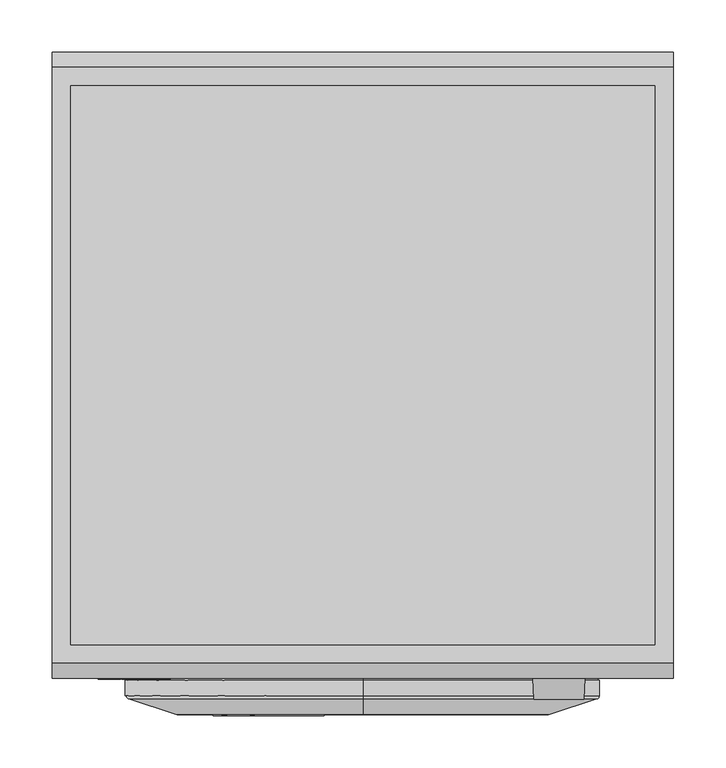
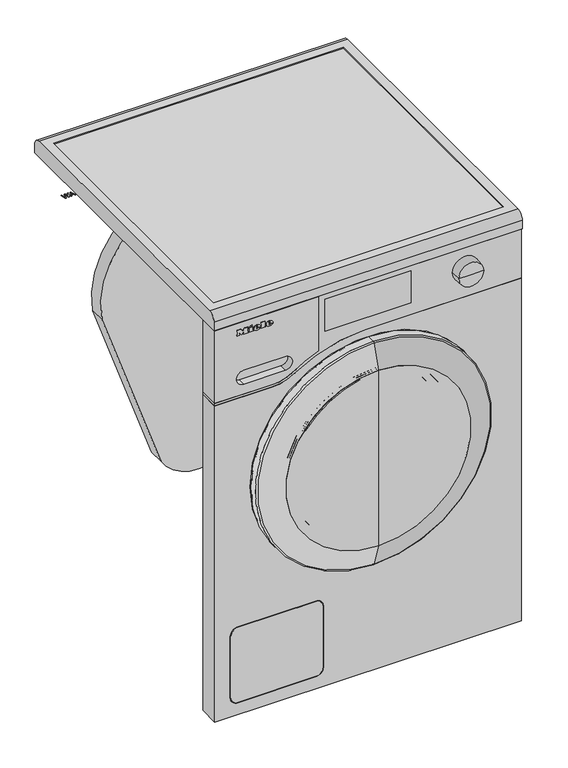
"""IFC4 building model written with IfcOpenShell, lengths in millimetres: proxy geometry, 12486470_P_WCB380WCS_LW : 11CB3801_P_12486470_WCB380WCS_LW."""

from ifc_helpers import new_model, si_unit, point, frame, frame_2d, origin, place, context, project, spatial, polyline, circle_curve, ellipse_curve, trimmed, segment, composite_curve, outline, extrude, source, transform, mapped, element, save
from ifc_brep_helpers import plane_surface, cylinder_surface, revolved_surface, extruded_surface, advanced_brep


def specialty_equipment_48e7e25c(model_context):
    return source(origin(), model_context, "Body", "SolidModel", [
        advanced_brep(
        [(-192.212, -601.0, 794.7018), (-192.212, -601.0, 795.8532), (-184.5854, -601.0, 795.8532), (-197.855, -601.0, 795.8532), (-194.72, -601.0, 792.0), (-184.7792, -601.0, 794.7018), (-188.222, -601.0, 794.7018), (-190.9352, -601.0, 793.425), (-192.212, -601.0, 797.3124), (-192.212, -601.0, 798.555), (-190.2626, -601.0, 798.555), (-190.2626, -601.0, 797.3124), (-192.212, -600.0, 794.7018), (-190.9352, -600.0, 793.425), (-188.222, -600.0, 794.7018), (-184.7792, -600.0, 794.7018), (-194.72, -600.0, 792.0), (-197.855, -600.0, 795.8532), (-184.5854, -600.0, 795.8532), (-192.212, -600.0, 795.8532), (-192.212, -600.0, 797.3124), (-190.2626, -600.0, 797.3124), (-190.2626, -600.0, 798.555), (-192.212, -600.0, 798.555)],
        [
            (0, 1),
            (1, 2),
            (2, 3, ellipse_curve(frame((-191.2202, -601.0, 795.8532), z_axis=(0.0, -1.0, 0.0), x_axis=(-1.0, 0.0, 0.0)), 6.6348, 5.4834)),
            (3, 4, circle_curve(frame((-193.4431378, -601.0, 796.2408), z_axis=(0.0, -1.0, 0.0), x_axis=(0.0, 0.0, -1.0)), 4.4288556)),
            (4, 5, circle_curve(frame((-191.3530192, -601.0, 799.2504), z_axis=(0.0, -1.0, 0.0), x_axis=(0.0, 0.0, -1.0)), 7.9940516)),
            (5, 6),
            (6, 7, circle_curve(frame((-190.3779412, -601.0, 795.762), z_axis=(0.0, 1.0, 0.0), x_axis=(0.0, 0.0, -1.0)), 2.4025208)),
            (7, 0, circle_curve(frame((-190.9352, -601.0, 794.7018), z_axis=(0.0, 1.0, 0.0), x_axis=(0.0, 0.0, -1.0)), 1.2768)),
            (8, 9),
            (9, 10, circle_curve(frame((-191.2373, -601.0, 798.555), z_axis=(0.0, 1.0, 0.0), x_axis=(0.0, 0.0, -1.0)), 0.9747)),
            (10, 11),
            (11, 8),
            (12, 13, circle_curve(frame((-190.9352, -600.0, 794.7018), z_axis=(0.0, -1.0, 0.0), x_axis=(0.0, 0.0, -1.0)), 1.2768)),
            (13, 14, circle_curve(frame((-190.3779412, -600.0, 795.762), z_axis=(0.0, -1.0, 0.0), x_axis=(0.0, 0.0, -1.0)), 2.4025208)),
            (14, 15),
            (15, 16, circle_curve(frame((-191.3530192, -600.0, 799.2504), z_axis=(0.0, 1.0, 0.0), x_axis=(0.0, 0.0, -1.0)), 7.9940516)),
            (16, 17, circle_curve(frame((-193.4431378, -600.0, 796.2408), z_axis=(0.0, 1.0, 0.0), x_axis=(0.0, 0.0, -1.0)), 4.4288556)),
            (17, 18, ellipse_curve(frame((-191.2202, -600.0, 795.8532), z_axis=(0.0, 1.0, 0.0), x_axis=(-1.0, 0.0, 0.0)), 6.6348, 5.4834)),
            (18, 19),
            (19, 12),
            (20, 21),
            (21, 22),
            (22, 23, circle_curve(frame((-191.2373, -600.0, 798.555), z_axis=(0.0, -1.0, 0.0), x_axis=(0.0, 0.0, -1.0)), 0.9747)),
            (23, 20),
            (0, 12),
            (19, 1),
            (18, 2),
            (5, 15),
            (14, 6),
            (17, 3),
            (13, 7),
            (16, 4),
            (8, 20),
            (23, 9),
            (22, 10),
            (21, 11),
        ],
        [
            plane_surface(frame((-192.212, -601.0, 795.8532), z_axis=(0.0, -1.0, 0.0), x_axis=(0.0, 0.0, 1.0))),
            plane_surface(frame((-192.212, -600.0, 795.8532), z_axis=(0.0, 1.0, 0.0), x_axis=(0.0, 0.0, -1.0))),
            plane_surface(frame((-192.212, -601.0, 794.7018), z_axis=(1.0, 0.0, 0.0), x_axis=(0.0, 1.0, 0.0))),
            plane_surface(frame((-192.212, -601.0, 795.8532), z_axis=(0.0, 0.0, -1.0), x_axis=(0.0, 1.0, 0.0))),
            plane_surface(frame((-184.7792, -601.0, 794.7018), z_axis=(0.0, 0.0, 1.0), x_axis=(0.0, 1.0, 0.0))),
            extruded_surface(trimmed(ellipse_curve(frame((-191.2202, -599.0, 795.8532), z_axis=(0.0, -1.0, 0.0), x_axis=(-1.0, 0.0, 0.0)), 6.6348, 5.4834), [point((-184.5854, -599.0, 795.8532))], [point((-197.855, -599.0, 795.8532))], True, "CARTESIAN"), (0.0, -1.0, 0.0), 1.0),
            revolved_surface(polyline([(-190.3779412, -600.0, 793.3594791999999), (-190.3779412, -601.0, 793.3594791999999)]), (-190.3779412, -600.0, 795.762), (0.0, 1.0, 0.0)),
            revolved_surface(polyline([(-190.9352, -600.0, 793.4250000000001), (-190.9352, -601.0, 793.4250000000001)]), (-190.9352, -600.0, 794.7018), (0.0, 1.0, 0.0)),
            cylinder_surface(frame((-193.4431378, -600.0, 796.2408), z_axis=(0.0, -1.0, 0.0), x_axis=(0.0, 0.0, -1.0)), 4.4288556),
            cylinder_surface(frame((-191.3530192, -600.0, 799.2504), z_axis=(0.0, -1.0, 0.0), x_axis=(0.0, 0.0, -1.0)), 7.9940516),
            plane_surface(frame((-192.212, -601.0, 797.3124), z_axis=(1.0, 0.0, 0.0), x_axis=(0.0, 1.0, 0.0))),
            revolved_surface(polyline([(-191.2373, -600.0, 797.5803), (-191.2373, -601.0, 797.5803)]), (-191.2373, -600.0, 798.555), (0.0, 1.0, 0.0)),
            plane_surface(frame((-190.2626, -601.0, 798.555), z_axis=(-1.0, 0.0, 0.0), x_axis=(0.0, 1.0, 0.0))),
            plane_surface(frame((-190.2626, -601.0, 797.3124), z_axis=(0.0, 0.0, 1.0), x_axis=(0.0, 1.0, 0.0))),
        ],
        [
            (0, [[1, 2, 3, 4, 5, 6, 7, 8], [9, 10, 11, 12]]),
            (1, [[13, 14, 15, 16, 17, 18, 19, 20], [21, 22, 23, 24]]),
            (2, [[-1, 25, -20, 26]]),
            (3, [[-2, -26, -19, 27]]),
            (4, [[-6, 28, -15, 29]]),
            (5, [[-3, -27, -18, 30]]),
            (6, [[-7, -29, -14, 31]]),
            (7, [[-8, -31, -13, -25]]),
            (8, [[-4, -30, -17, 32]]),
            (9, [[-5, -32, -16, -28]]),
            (10, [[-9, 33, -24, 34]]),
            (11, [[-10, -34, -23, 35]]),
            (12, [[-11, -35, -22, 36]]),
            (13, [[-12, -36, -21, -33]]),
        ],
    ),
        advanced_brep(
        [(-216.0038, -601.0, 794.7018), (-216.0038, -601.0, 795.8532), (-208.3772, -601.0, 795.8532), (-221.6468, -601.0, 795.8532), (-218.5118, -601.0, 792.0), (-208.571, -601.0, 794.7018), (-212.0138, -601.0, 794.7018), (-214.727, -601.0, 793.425), (-216.0038, -601.0, 797.3124), (-216.0038, -601.0, 798.555), (-214.0544, -601.0, 798.555), (-214.0544, -601.0, 797.3124), (-216.0038, -600.0, 794.7018), (-214.727, -600.0, 793.425), (-212.0138, -600.0, 794.7018), (-208.571, -600.0, 794.7018), (-218.5118, -600.0, 792.0), (-221.6468, -600.0, 795.8532), (-208.3772, -600.0, 795.8532), (-216.0038, -600.0, 795.8532), (-216.0038, -600.0, 797.3124), (-214.0544, -600.0, 797.3124), (-214.0544, -600.0, 798.555), (-216.0038, -600.0, 798.555)],
        [
            (0, 1),
            (1, 2),
            (2, 3, ellipse_curve(frame((-215.012, -601.0, 795.8532), z_axis=(0.0, -1.0, 0.0), x_axis=(-1.0, 0.0, 0.0)), 6.6348, 5.4834)),
            (3, 4, circle_curve(frame((-217.2349378, -601.0, 796.2408), z_axis=(0.0, -1.0, 0.0), x_axis=(0.0, 0.0, -1.0)), 4.4288556)),
            (4, 5, circle_curve(frame((-215.1448192, -601.0, 799.2504), z_axis=(0.0, -1.0, 0.0), x_axis=(0.0, 0.0, -1.0)), 7.9940516)),
            (5, 6),
            (6, 7, circle_curve(frame((-214.1697412, -601.0, 795.762), z_axis=(0.0, 1.0, 0.0), x_axis=(0.0, 0.0, -1.0)), 2.4025208)),
            (7, 0, circle_curve(frame((-214.727, -601.0, 794.7018), z_axis=(0.0, 1.0, 0.0), x_axis=(0.0, 0.0, -1.0)), 1.2768)),
            (8, 9),
            (9, 10, circle_curve(frame((-215.0291, -601.0, 798.555), z_axis=(0.0, 1.0, 0.0), x_axis=(0.0, 0.0, -1.0)), 0.9747)),
            (10, 11),
            (11, 8),
            (12, 13, circle_curve(frame((-214.727, -600.0, 794.7018), z_axis=(0.0, -1.0, 0.0), x_axis=(0.0, 0.0, -1.0)), 1.2768)),
            (13, 14, circle_curve(frame((-214.1697412, -600.0, 795.762), z_axis=(0.0, -1.0, 0.0), x_axis=(0.0, 0.0, -1.0)), 2.4025208)),
            (14, 15),
            (15, 16, circle_curve(frame((-215.1448192, -600.0, 799.2504), z_axis=(0.0, 1.0, 0.0), x_axis=(0.0, 0.0, -1.0)), 7.9940516)),
            (16, 17, circle_curve(frame((-217.2349378, -600.0, 796.2408), z_axis=(0.0, 1.0, 0.0), x_axis=(0.0, 0.0, -1.0)), 4.4288556)),
            (17, 18, ellipse_curve(frame((-215.012, -600.0, 795.8532), z_axis=(0.0, 1.0, 0.0), x_axis=(-1.0, 0.0, 0.0)), 6.6348, 5.4834)),
            (18, 19),
            (19, 12),
            (20, 21),
            (21, 22),
            (22, 23, circle_curve(frame((-215.0291, -600.0, 798.555), z_axis=(0.0, -1.0, 0.0), x_axis=(0.0, 0.0, -1.0)), 0.9747)),
            (23, 20),
            (0, 12),
            (19, 1),
            (18, 2),
            (5, 15),
            (14, 6),
            (17, 3),
            (13, 7),
            (16, 4),
            (8, 20),
            (23, 9),
            (22, 10),
            (21, 11),
        ],
        [
            plane_surface(frame((-216.0038, -601.0, 795.8532), z_axis=(0.0, -1.0, 0.0), x_axis=(0.0, 0.0, 1.0))),
            plane_surface(frame((-216.0038, -600.0, 795.8532), z_axis=(0.0, 1.0, 0.0), x_axis=(0.0, 0.0, -1.0))),
            plane_surface(frame((-216.0038, -601.0, 794.7018), z_axis=(1.0, 0.0, 0.0), x_axis=(0.0, 1.0, 0.0))),
            plane_surface(frame((-216.0038, -601.0, 795.8532), z_axis=(0.0, 0.0, -1.0), x_axis=(0.0, 1.0, 0.0))),
            plane_surface(frame((-208.571, -601.0, 794.7018), z_axis=(0.0, 0.0, 1.0), x_axis=(0.0, 1.0, 0.0))),
            extruded_surface(trimmed(ellipse_curve(frame((-215.012, -599.0, 795.8532), z_axis=(0.0, -1.0, 0.0), x_axis=(-1.0, 0.0, 0.0)), 6.6348, 5.4834), [point((-208.3772, -599.0, 795.8532))], [point((-221.6468, -599.0, 795.8532))], True, "CARTESIAN"), (0.0, -1.0, 0.0), 1.0),
            revolved_surface(polyline([(-214.1697412, -600.0, 793.3594791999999), (-214.1697412, -601.0, 793.3594791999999)]), (-214.1697412, -600.0, 795.762), (0.0, 1.0, 0.0)),
            revolved_surface(polyline([(-214.727, -600.0, 793.4250000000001), (-214.727, -601.0, 793.4250000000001)]), (-214.727, -600.0, 794.7018), (0.0, 1.0, 0.0)),
            cylinder_surface(frame((-217.2349378, -600.0, 796.2408), z_axis=(0.0, -1.0, 0.0), x_axis=(0.0, 0.0, -1.0)), 4.4288556),
            cylinder_surface(frame((-215.1448192, -600.0, 799.2504), z_axis=(0.0, -1.0, 0.0), x_axis=(0.0, 0.0, -1.0)), 7.9940516),
            plane_surface(frame((-216.0038, -601.0, 797.3124), z_axis=(1.0, 0.0, 0.0), x_axis=(0.0, 1.0, 0.0))),
            revolved_surface(polyline([(-215.0291, -600.0, 797.5803), (-215.0291, -601.0, 797.5803)]), (-215.0291, -600.0, 798.555), (0.0, 1.0, 0.0)),
            plane_surface(frame((-214.0544, -601.0, 798.555), z_axis=(-1.0, 0.0, 0.0), x_axis=(0.0, 1.0, 0.0))),
            plane_surface(frame((-214.0544, -601.0, 797.3124), z_axis=(0.0, 0.0, 1.0), x_axis=(0.0, 1.0, 0.0))),
        ],
        [
            (0, [[1, 2, 3, 4, 5, 6, 7, 8], [9, 10, 11, 12]]),
            (1, [[13, 14, 15, 16, 17, 18, 19, 20], [21, 22, 23, 24]]),
            (2, [[-1, 25, -20, 26]]),
            (3, [[-2, -26, -19, 27]]),
            (4, [[-6, 28, -15, 29]]),
            (5, [[-3, -27, -18, 30]]),
            (6, [[-7, -29, -14, 31]]),
            (7, [[-8, -31, -13, -25]]),
            (8, [[-4, -30, -17, 32]]),
            (9, [[-5, -32, -16, -28]]),
            (10, [[-9, 33, -24, 34]]),
            (11, [[-10, -34, -23, 35]]),
            (12, [[-11, -35, -22, 36]]),
            (13, [[-12, -36, -21, -33]]),
        ],
    ),
        extrude(outline(polyline([(802.7274, -228.464), (800.8806, -227.5976), (802.6818, -223.733), (804.5286, -224.588), (802.7274, -228.464)])), frame((0.0, -601.0, 0.0), z_axis=(0.0, 1.0, 0.0), x_axis=(0.0, 0.0, 1.0)), (0.0, 0.0, 1.0), 1.0),
        extrude(outline(polyline([(800.6298, -231.2798), (798.5892, -231.2798), (798.5892, -229.9232), (793.9152, -229.9232), (793.9152, -231.2798), (792.0, -231.2798), (792.0, -222.2852), (793.9152, -222.2852), (793.9152, -223.6076), (800.6298, -223.6076), (800.6298, -231.2798)])), frame((0.0, -601.0, 0.0), z_axis=(0.0, 1.0, 0.0), x_axis=(0.0, 0.0, 1.0)), (0.0, 0.0, 1.0), 1.0),
        extrude(outline(polyline([(801.5418, -207.7388), (801.5418, -206.3708), (793.9152, -206.3708), (793.9152, -207.7388), (792.0, -207.7388), (792.0, -198.4934), (793.9152, -198.4934), (793.9152, -199.8956), (803.4, -199.8956), (803.4, -207.7388), (801.5418, -207.7388)])), frame((0.0, -601.0, 0.0), z_axis=(0.0, 1.0, 0.0), x_axis=(0.0, 0.0, 1.0)), (0.0, 0.0, 1.0), 1.0),
        extrude(outline(polyline([(801.5418, -254.0), (801.5418, -252.6206), (793.9152, -252.6206), (793.9152, -254.0), (792.0, -254.0), (792.0, -248.984), (793.9152, -248.984), (793.9152, -250.352), (798.7429247, -250.352), (792.0, -245.2562), (798.9402223, -240.1376), (793.9152, -240.1376), (793.9152, -241.5398), (792.0, -241.5398), (792.0, -232.4426), (793.9152, -232.4426), (793.9152, -233.8904), (801.5418, -233.8904), (801.5418, -232.4426), (803.4, -232.4426), (803.4, -239.3852), (799.125, -242.714), (803.4, -246.0542), (803.4, -254.0), (801.5418, -254.0)])), frame((0.0, -601.0, 0.0), z_axis=(0.0, 1.0, 0.0), x_axis=(0.0, 0.0, 1.0)), (0.0, 0.0, 1.0), 1.0),
        extrude(outline(composite_curve([segment(trimmed(circle_curve(frame_2d((475.0, 0.0)), 179.0077488), [point((650.0572384, -37.3996979))], [point((581.8669772, -143.6078804))], False, "CARTESIAN"), True, "CONTINUOUS"), segment(polyline([(581.8669772, -143.6078804), (580.6729844, -142.0033925)]), True, "CONTINUOUS"), segment(trimmed(circle_curve(frame_2d((475.0, 0.0)), 177.0077488), [point((580.6729844, -142.0033925))], [point((648.1013763, -36.9818423))], True, "CARTESIAN"), True, "CONTINUOUS"), segment(polyline([(648.1013763, -36.9818423), (650.0572384, -37.3996979)]), True, "CONTINUOUS")], self_intersect=False)), frame((0.0, -636.0, 0.0), z_axis=(0.0, 1.0, 0.0), x_axis=(0.0, 0.0, 1.0)), (0.0, 0.0, 1.0), 1.0),
        advanced_brep(
        [(0.0, -635.0, 296.0), (0.0, -635.0, 654.0), (0.0, -630.9005671, 650.4364173), (0.0, -630.9005671, 299.5635827), (0.0, -635.0, 475.0), (0.0, -589.0, 326.0), (0.0, -589.0, 624.0), (0.0, -589.0, 475.0), (0.0, -592.0, 326.0), (0.0, -592.0, 624.0), (0.0, -592.0, 313.0), (0.0, -592.0, 637.0), (0.0, -610.8709778, 313.0), (0.0, -610.8709778, 637.0), (0.0, -628.93239, 297.2994539), (0.0, -628.93239, 652.7005461)],
        [
            (0, 1, circle_curve(frame((0.0, -635.0, 475.0), z_axis=(0.0, 1.0, 0.0), x_axis=(0.0, 0.0, 1.0)), 179.0)),
            (1, 2),
            (2, 3, circle_curve(frame((0.0, -630.9005671, 475.0), z_axis=(0.0, -1.0, 0.0), x_axis=(0.0, 0.0, 1.0)), 175.4364173)),
            (3, 0),
            (1, 0, circle_curve(frame((0.0, -635.0, 475.0), z_axis=(0.0, 1.0, 0.0), x_axis=(0.0, 0.0, 1.0)), 179.0)),
            (3, 2, circle_curve(frame((0.0, -630.9005671, 475.0), z_axis=(0.0, -1.0, 0.0), x_axis=(0.0, 0.0, 1.0)), 175.4364173)),
            (4, 1),
            (0, 4),
            (5, 6, circle_curve(frame((0.0, -589.0, 475.0), z_axis=(0.0, 1.0, 0.0), x_axis=(0.0, 0.0, 1.0)), 149.0)),
            (6, 7),
            (7, 5),
            (6, 5, circle_curve(frame((0.0, -589.0, 475.0), z_axis=(0.0, 1.0, 0.0), x_axis=(0.0, 0.0, 1.0)), 149.0)),
            (8, 9, circle_curve(frame((0.0, -592.0, 475.0), z_axis=(0.0, 1.0, 0.0), x_axis=(0.0, 0.0, 1.0)), 149.0)),
            (9, 6),
            (5, 8),
            (9, 8, circle_curve(frame((0.0, -592.0, 475.0), z_axis=(0.0, 1.0, 0.0), x_axis=(0.0, 0.0, 1.0)), 149.0)),
            (10, 11, circle_curve(frame((0.0, -592.0, 475.0), z_axis=(0.0, 1.0, 0.0), x_axis=(0.0, 0.0, 1.0)), 162.0)),
            (11, 9),
            (8, 10),
            (11, 10, circle_curve(frame((0.0, -592.0, 475.0), z_axis=(0.0, 1.0, 0.0), x_axis=(0.0, 0.0, 1.0)), 162.0)),
            (12, 13, circle_curve(frame((0.0, -610.8709778, 475.0), z_axis=(0.0, 1.0, 0.0), x_axis=(0.0, 0.0, 1.0)), 162.0)),
            (13, 11),
            (10, 12),
            (13, 12, circle_curve(frame((0.0, -610.8709778, 475.0), z_axis=(0.0, 1.0, 0.0), x_axis=(0.0, 0.0, 1.0)), 162.0)),
            (14, 15, circle_curve(frame((0.0, -628.93239, 475.0), z_axis=(0.0, 1.0, 0.0), x_axis=(0.0, 0.0, 1.0)), 177.7005461)),
            (15, 13),
            (12, 14),
            (15, 14, circle_curve(frame((0.0, -628.93239, 475.0), z_axis=(0.0, 1.0, 0.0), x_axis=(0.0, 0.0, 1.0)), 177.7005461)),
            (2, 15),
            (14, 3),
        ],
        [
            revolved_surface(polyline([(0.0, -630.9005671, 650.4364173), (0.0, -635.0, 654.0)]), (0.0, -2342.7556811, 475.0), (0.0, -1.0, 0.0)),
            plane_surface(frame((0.0, -635.0, 475.0), z_axis=(0.0, -1.0, 0.0), x_axis=(0.0, 0.0, 1.0))),
            plane_surface(frame((0.0, -589.0, 475.0), z_axis=(0.0, 1.0, 0.0), x_axis=(0.0, 0.0, 1.0))),
            cylinder_surface(frame((0.0, -2342.7556811, 475.0), z_axis=(0.0, -1.0, 0.0), x_axis=(0.0, 0.0, 1.0)), 149.0),
            plane_surface(frame((0.0, -592.0, 475.0), z_axis=(0.0, 1.0, 0.0), x_axis=(0.0, 0.0, 1.0))),
            cylinder_surface(frame((0.0, -2342.7556811, 475.0), z_axis=(0.0, -1.0, 0.0), x_axis=(0.0, 0.0, 1.0)), 162.0),
            revolved_surface(polyline([(0.0, -610.8709778, 637.0), (0.0, -628.93239, 652.7005461)]), (0.0, -2342.7556811, 475.0), (0.0, -1.0, 0.0)),
            revolved_surface(polyline([(0.0, -628.93239, 652.7005461), (0.0, -630.9005671, 650.4364173)]), (0.0, -2342.7556811, 475.0), (0.0, -1.0, 0.0)),
        ],
        [
            (0, [[1, 2, 3, 4]]),
            (0, [[5, -4, 6, -2]]),
            (1, [[7, -1, 8]]),
            (1, [[-8, -5, -7]]),
            (2, [[9, 10, 11]]),
            (2, [[12, -11, -10]]),
            (3, [[13, 14, -9, 15]]),
            (3, [[16, -15, -12, -14]]),
            (4, [[17, 18, -13, 19]]),
            (4, [[20, -19, -16, -18]]),
            (5, [[21, 22, -17, 23]]),
            (5, [[24, -23, -20, -22]]),
            (6, [[25, 26, -21, 27]]),
            (6, [[28, -27, -24, -26]]),
            (7, [[-3, 29, -25, 30]]),
            (7, [[-6, -30, -28, -29]]),
        ],
    ),
        advanced_brep(
        [(0.0, -589.0, 254.0), (0.0, -589.0, 696.0), (0.0, -589.0, 624.0), (0.0, -589.0, 326.0), (0.0, -602.0, 248.0), (0.0, -602.0, 702.0), (0.0, -602.0, 313.0), (0.0, -602.0, 637.0), (0.0, -592.0, 313.0), (0.0, -592.0, 637.0), (0.0, -592.0, 326.0), (0.0, -592.0, 624.0)],
        [
            (0, 1, circle_curve(frame((0.0, -589.0, 475.0), z_axis=(0.0, 1.0, 0.0), x_axis=(0.0, 0.0, 1.0)), 221.0)),
            (1, 2),
            (2, 3, circle_curve(frame((0.0, -589.0, 475.0), z_axis=(0.0, -1.0, 0.0), x_axis=(0.0, 0.0, 1.0)), 149.0)),
            (3, 0),
            (1, 0, circle_curve(frame((0.0, -589.0, 475.0), z_axis=(0.0, 1.0, 0.0), x_axis=(0.0, 0.0, 1.0)), 221.0)),
            (3, 2, circle_curve(frame((0.0, -589.0, 475.0), z_axis=(0.0, -1.0, 0.0), x_axis=(0.0, 0.0, 1.0)), 149.0)),
            (4, 5, circle_curve(frame((0.0, -602.0, 475.0), z_axis=(0.0, 1.0, 0.0), x_axis=(0.0, 0.0, 1.0)), 227.0)),
            (5, 1),
            (0, 4),
            (5, 4, circle_curve(frame((0.0, -602.0, 475.0), z_axis=(0.0, 1.0, 0.0), x_axis=(0.0, 0.0, 1.0)), 227.0)),
            (6, 7, circle_curve(frame((0.0, -602.0, 475.0), z_axis=(0.0, 1.0, 0.0), x_axis=(0.0, 0.0, 1.0)), 162.0)),
            (7, 5),
            (4, 6),
            (7, 6, circle_curve(frame((0.0, -602.0, 475.0), z_axis=(0.0, 1.0, 0.0), x_axis=(0.0, 0.0, 1.0)), 162.0)),
            (8, 9, circle_curve(frame((0.0, -592.0, 475.0), z_axis=(0.0, 1.0, 0.0), x_axis=(0.0, 0.0, 1.0)), 162.0)),
            (9, 7),
            (6, 8),
            (9, 8, circle_curve(frame((0.0, -592.0, 475.0), z_axis=(0.0, 1.0, 0.0), x_axis=(0.0, 0.0, 1.0)), 162.0)),
            (10, 11, circle_curve(frame((0.0, -592.0, 475.0), z_axis=(0.0, 1.0, 0.0), x_axis=(0.0, 0.0, 1.0)), 149.0)),
            (11, 9),
            (8, 10),
            (11, 10, circle_curve(frame((0.0, -592.0, 475.0), z_axis=(0.0, 1.0, 0.0), x_axis=(0.0, 0.0, 1.0)), 149.0)),
            (2, 11),
            (10, 3),
        ],
        [
            plane_surface(frame((0.0, -589.0, 475.0), z_axis=(0.0, 1.0, 0.0), x_axis=(0.0, 0.0, 1.0))),
            revolved_surface(polyline([(0.0, -589.0, 696.0), (0.0, -602.0, 702.0)]), (0.0, -2342.7556811, 475.0), (0.0, -1.0, 0.0)),
            plane_surface(frame((0.0, -602.0, 475.0), z_axis=(0.0, -1.0, 0.0), x_axis=(0.0, 0.0, 1.0))),
            revolved_surface(polyline([(0.0, -602.0, 637.0), (0.0, -592.0, 637.0)]), (0.0, -2342.7556811, 475.0), (0.0, -1.0, 0.0)),
            plane_surface(frame((0.0, -592.0, 475.0), z_axis=(0.0, -1.0, 0.0), x_axis=(0.0, 0.0, 1.0))),
            revolved_surface(polyline([(0.0, -592.0, 624.0), (0.0, -589.0, 624.0)]), (0.0, -2342.7556811, 475.0), (0.0, -1.0, 0.0)),
        ],
        [
            (0, [[1, 2, 3, 4]]),
            (0, [[5, -4, 6, -2]]),
            (1, [[7, 8, -1, 9]]),
            (1, [[10, -9, -5, -8]]),
            (2, [[11, 12, -7, 13]]),
            (2, [[14, -13, -10, -12]]),
            (3, [[15, 16, -11, 17]]),
            (3, [[18, -17, -14, -16]]),
            (4, [[19, 20, -15, 21]]),
            (4, [[22, -21, -18, -20]]),
            (5, [[-3, 23, -19, 24]]),
            (5, [[-6, -24, -22, -23]]),
        ],
    ),
        advanced_brep(
        [(0.0, -628.93239, 297.2994539), (0.0, -628.93239, 652.7005461), (0.0, -626.9642129, 654.9646748), (0.0, -626.9642129, 295.0353252), (0.0, -610.8709778, 313.0), (0.0, -610.8709778, 637.0), (0.0, -602.0, 313.0), (0.0, -602.0, 637.0), (0.0, -609.7493238, 640.0), (0.0, -609.7493238, 310.0), (0.0, -602.0, 310.0), (0.0, -602.0, 640.0)],
        [
            (0, 1, circle_curve(frame((0.0, -628.93239, 475.0), z_axis=(0.0, 1.0, 0.0), x_axis=(0.0, 0.0, 1.0)), 177.7005461)),
            (1, 2),
            (2, 3, circle_curve(frame((0.0, -626.9642129, 475.0), z_axis=(0.0, -1.0, 0.0), x_axis=(0.0, 0.0, 1.0)), 179.9646748)),
            (3, 0),
            (1, 0, circle_curve(frame((0.0, -628.93239, 475.0), z_axis=(0.0, 1.0, 0.0), x_axis=(0.0, 0.0, 1.0)), 177.7005461)),
            (3, 2, circle_curve(frame((0.0, -626.9642129, 475.0), z_axis=(0.0, -1.0, 0.0), x_axis=(0.0, 0.0, 1.0)), 179.9646748)),
            (4, 5, circle_curve(frame((0.0, -610.8709778, 475.0), z_axis=(0.0, 1.0, 0.0), x_axis=(0.0, 0.0, 1.0)), 162.0)),
            (5, 1),
            (0, 4),
            (5, 4, circle_curve(frame((0.0, -610.8709778, 475.0), z_axis=(0.0, 1.0, 0.0), x_axis=(0.0, 0.0, 1.0)), 162.0)),
            (6, 7, circle_curve(frame((0.0, -602.0, 475.0), z_axis=(0.0, 1.0, 0.0), x_axis=(0.0, 0.0, 1.0)), 162.0)),
            (7, 5),
            (4, 6),
            (7, 6, circle_curve(frame((0.0, -602.0, 475.0), z_axis=(0.0, 1.0, 0.0), x_axis=(0.0, 0.0, 1.0)), 162.0)),
            (2, 8),
            (8, 9, circle_curve(frame((0.0, -609.7493238, 475.0), z_axis=(0.0, -1.0, 0.0), x_axis=(0.0, 0.0, 1.0)), 165.0)),
            (9, 3),
            (9, 8, circle_curve(frame((0.0, -609.7493238, 475.0), z_axis=(0.0, -1.0, 0.0), x_axis=(0.0, 0.0, 1.0)), 165.0)),
            (10, 11, circle_curve(frame((0.0, -602.0, 475.0), z_axis=(0.0, 1.0, 0.0), x_axis=(0.0, 0.0, 1.0)), 165.0)),
            (11, 7),
            (6, 10),
            (11, 10, circle_curve(frame((0.0, -602.0, 475.0), z_axis=(0.0, 1.0, 0.0), x_axis=(0.0, 0.0, 1.0)), 165.0)),
            (8, 11),
            (10, 9),
        ],
        [
            revolved_surface(polyline([(0.0, -626.9642129, 654.9646748), (0.0, -628.93239, 652.7005461)]), (0.0, -2342.7556811, 475.0), (0.0, -1.0, 0.0)),
            revolved_surface(polyline([(0.0, -628.93239, 652.7005461), (0.0, -610.8709778, 637.0)]), (0.0, -2342.7556811, 475.0), (0.0, -1.0, 0.0)),
            revolved_surface(polyline([(0.0, -610.8709778, 637.0), (0.0, -602.0, 637.0)]), (0.0, -2342.7556811, 475.0), (0.0, -1.0, 0.0)),
            revolved_surface(polyline([(0.0, -609.7493238, 640.0), (0.0, -626.9642129, 654.9646748)]), (0.0, -2342.7556811, 475.0), (0.0, -1.0, 0.0)),
            plane_surface(frame((0.0, -602.0, 475.0), z_axis=(0.0, 1.0, 0.0), x_axis=(0.0, 0.0, 1.0))),
            cylinder_surface(frame((0.0, -2342.7556811, 475.0), z_axis=(0.0, -1.0, 0.0), x_axis=(0.0, 0.0, 1.0)), 165.0),
        ],
        [
            (0, [[1, 2, 3, 4]]),
            (0, [[5, -4, 6, -2]]),
            (1, [[7, 8, -1, 9]]),
            (1, [[10, -9, -5, -8]]),
            (2, [[11, 12, -7, 13]]),
            (2, [[14, -13, -10, -12]]),
            (3, [[-3, 15, 16, 17]]),
            (3, [[-6, -17, 18, -15]]),
            (4, [[19, 20, -11, 21]]),
            (4, [[22, -21, -14, -20]]),
            (5, [[-16, 23, -19, 24]]),
            (5, [[-18, -24, -22, -23]]),
        ],
    ),
        advanced_brep(
        [(0.0, -616.8993073, 247.0), (0.0, -616.8993073, 703.0), (0.0, -602.0, 703.0), (0.0, -602.0, 247.0), (0.0, -619.7524768, 249.072949), (0.0, -619.7524768, 700.927051), (0.0, -635.0, 296.0), (0.0, -635.0, 654.0), (0.0, -630.9005671, 299.5635827), (0.0, -630.9005671, 650.4364173), (0.0, -626.9642129, 295.0353252), (0.0, -626.9642129, 654.9646748), (0.0, -609.7493238, 310.0), (0.0, -609.7493238, 640.0), (0.0, -602.0, 640.0), (0.0, -602.0, 310.0)],
        [
            (0, 1, circle_curve(frame((0.0, -616.8993073, 475.0), z_axis=(0.0, 1.0, 0.0), x_axis=(0.0, 0.0, 1.0)), 228.0)),
            (1, 2),
            (2, 3, circle_curve(frame((0.0, -602.0, 475.0), z_axis=(0.0, -1.0, 0.0), x_axis=(0.0, 0.0, 1.0)), 228.0)),
            (3, 0),
            (1, 0, circle_curve(frame((0.0, -616.8993073, 475.0), z_axis=(0.0, 1.0, 0.0), x_axis=(0.0, 0.0, 1.0)), 228.0)),
            (3, 2, circle_curve(frame((0.0, -602.0, 475.0), z_axis=(0.0, -1.0, 0.0), x_axis=(0.0, 0.0, 1.0)), 228.0)),
            (4, 5, circle_curve(frame((0.0, -619.7524768, 475.0), z_axis=(0.0, 1.0, 0.0), x_axis=(0.0, 0.0, 1.0)), 225.927051)),
            (5, 1, circle_curve(frame((0.0, -616.8993073, 700.0), z_axis=(-1.0, 0.0, 0.0), x_axis=(0.0, 1.0, 0.0)), 3.0)),
            (0, 4, circle_curve(frame((0.0, -616.8993073, 250.0), z_axis=(-1.0, 0.0, 0.0), x_axis=(0.0, 1.0, 0.0)), 3.0)),
            (5, 4, circle_curve(frame((0.0, -619.7524768, 475.0), z_axis=(0.0, 1.0, 0.0), x_axis=(0.0, 0.0, 1.0)), 225.927051)),
            (6, 7, circle_curve(frame((0.0, -635.0, 475.0), z_axis=(0.0, 1.0, 0.0), x_axis=(0.0, 0.0, 1.0)), 179.0)),
            (7, 5),
            (4, 6),
            (7, 6, circle_curve(frame((0.0, -635.0, 475.0), z_axis=(0.0, 1.0, 0.0), x_axis=(0.0, 0.0, 1.0)), 179.0)),
            (8, 9, circle_curve(frame((0.0, -630.9005671, 475.0), z_axis=(0.0, 1.0, 0.0), x_axis=(0.0, 0.0, 1.0)), 175.4364173)),
            (9, 7),
            (6, 8),
            (9, 8, circle_curve(frame((0.0, -630.9005671, 475.0), z_axis=(0.0, 1.0, 0.0), x_axis=(0.0, 0.0, 1.0)), 175.4364173)),
            (10, 11, circle_curve(frame((0.0, -626.9642129, 475.0), z_axis=(0.0, 1.0, 0.0), x_axis=(0.0, 0.0, 1.0)), 179.9646748)),
            (11, 9),
            (8, 10),
            (11, 10, circle_curve(frame((0.0, -626.9642129, 475.0), z_axis=(0.0, 1.0, 0.0), x_axis=(0.0, 0.0, 1.0)), 179.9646748)),
            (12, 13, circle_curve(frame((0.0, -609.7493238, 475.0), z_axis=(0.0, 1.0, 0.0), x_axis=(0.0, 0.0, 1.0)), 165.0)),
            (13, 11),
            (10, 12),
            (13, 12, circle_curve(frame((0.0, -609.7493238, 475.0), z_axis=(0.0, 1.0, 0.0), x_axis=(0.0, 0.0, 1.0)), 165.0)),
            (2, 14),
            (14, 15, circle_curve(frame((0.0, -602.0, 475.0), z_axis=(0.0, -1.0, 0.0), x_axis=(0.0, 0.0, 1.0)), 165.0)),
            (15, 3),
            (15, 14, circle_curve(frame((0.0, -602.0, 475.0), z_axis=(0.0, -1.0, 0.0), x_axis=(0.0, 0.0, 1.0)), 165.0)),
            (14, 13),
            (12, 15),
        ],
        [
            cylinder_surface(frame((0.0, -2342.7556811, 475.0), z_axis=(0.0, -1.0, 0.0), x_axis=(0.0, 0.0, 1.0)), 228.0),
            revolved_surface(trimmed(ellipse_curve(frame((0.0, -616.8993073, 700.0), z_axis=(1.0, 0.0, 0.0), x_axis=(0.0, 1.0, 0.0)), 3.0, 3.0), [point((0.0, -616.8993073, 703.0))], [point((0.0, -619.7524768, 700.927051))], True, "CARTESIAN"), (0.0, -2342.7556811, 475.0), (0.0, -1.0, 0.0)),
            revolved_surface(polyline([(0.0, -619.7524768, 700.927051), (0.0, -635.0, 654.0)]), (0.0, -2342.7556811, 475.0), (0.0, -1.0, 0.0)),
            revolved_surface(polyline([(0.0, -635.0, 654.0), (0.0, -630.9005671, 650.4364173)]), (0.0, -2342.7556811, 475.0), (0.0, -1.0, 0.0)),
            revolved_surface(polyline([(0.0, -630.9005671, 650.4364173), (0.0, -626.9642129, 654.9646748)]), (0.0, -2342.7556811, 475.0), (0.0, -1.0, 0.0)),
            revolved_surface(polyline([(0.0, -626.9642129, 654.9646748), (0.0, -609.7493238, 640.0)]), (0.0, -2342.7556811, 475.0), (0.0, -1.0, 0.0)),
            plane_surface(frame((0.0, -602.0, 475.0), z_axis=(0.0, 1.0, 0.0), x_axis=(0.0, 0.0, 1.0))),
            revolved_surface(polyline([(0.0, -609.7493238, 640.0), (0.0, -602.0, 640.0)]), (0.0, -2342.7556811, 475.0), (0.0, -1.0, 0.0)),
        ],
        [
            (0, [[1, 2, 3, 4]]),
            (0, [[5, -4, 6, -2]]),
            (1, [[7, 8, -1, 9]]),
            (1, [[10, -9, -5, -8]]),
            (2, [[11, 12, -7, 13]]),
            (2, [[14, -13, -10, -12]]),
            (3, [[15, 16, -11, 17]]),
            (3, [[18, -17, -14, -16]]),
            (4, [[19, 20, -15, 21]]),
            (4, [[22, -21, -18, -20]]),
            (5, [[23, 24, -19, 25]]),
            (5, [[26, -25, -22, -24]]),
            (6, [[-3, 27, 28, 29]]),
            (6, [[-6, -29, 30, -27]]),
            (7, [[-28, 31, -23, 32]]),
            (7, [[-30, -32, -26, -31]]),
        ],
    ),
        advanced_brep(
        [(188.0, -600.0, 775.0), (213.0, -600.0, 775.0), (163.0, -600.0, 775.0), (164.0481556, -620.0, 775.0), (211.9518444, -620.0, 775.0), (188.0, -620.0, 775.0)],
        [
            (0, 1),
            (1, 2, circle_curve(frame((188.0, -600.0, 775.0), z_axis=(0.0, 1.0, 0.0), x_axis=(1.0, 0.0, 0.0)), 25.0)),
            (2, 0),
            (2, 1, circle_curve(frame((188.0, -600.0, 775.0), z_axis=(0.0, 1.0, 0.0), x_axis=(1.0, 0.0, 0.0)), 25.0)),
            (3, 4, circle_curve(frame((188.0, -620.0, 775.0), z_axis=(0.0, -1.0, 0.0), x_axis=(1.0, 0.0, 0.0)), 23.9518444)),
            (4, 5),
            (5, 3),
            (4, 3, circle_curve(frame((188.0, -620.0, 775.0), z_axis=(0.0, -1.0, 0.0), x_axis=(1.0, 0.0, 0.0)), 23.9518444)),
            (1, 4),
            (3, 2),
        ],
        [
            plane_surface(frame((188.0, -600.0, 775.0), z_axis=(0.0, 1.0, 0.0), x_axis=(1.0, 0.0, 0.0))),
            plane_surface(frame((188.0, -620.0, 775.0), z_axis=(0.0, -1.0, 0.0), x_axis=(1.0, 0.0, 0.0))),
            revolved_surface(polyline([(211.9518444, -620.0, 775.0), (213.0, -600.0, 775.0)]), (188.0, -429.2290526, 775.0), (0.0, 1.0, 0.0)),
        ],
        [
            (0, [[1, 2, 3]]),
            (0, [[-3, 4, -1]]),
            (1, [[5, 6, 7]]),
            (1, [[8, -7, -6]]),
            (2, [[-2, 9, -5, 10]]),
            (2, [[-4, -10, -8, -9]]),
        ],
    ),
        advanced_brep(
        [(298.0, -585.5, 850.0), (298.0, -600.0, 835.5), (298.0, -600.0, 818.0), (298.0, 0.0, 818.0), (298.0, 0.0, 835.5), (298.0, -14.5, 850.0), (-298.0, -585.5, 850.0), (-298.0, -14.5, 850.0), (-298.0, 0.0, 835.5), (-298.0, 0.0, 818.0), (-298.0, -600.0, 818.0), (-298.0, -600.0, 835.5), (-280.0, -32.0, 850.0), (280.0, -32.0, 850.0), (280.0, -568.0, 850.0), (-280.0, -568.0, 850.0), (280.0, -32.0, 848.0), (-280.0, -32.0, 848.0), (-280.0, -568.0, 848.0), (280.0, -568.0, 848.0)],
        [
            (0, 1, circle_curve(frame((298.0, -585.5, 835.5), z_axis=(1.0, 0.0, 0.0), x_axis=(0.0, 0.0, -1.0)), 14.5)),
            (1, 2),
            (2, 3),
            (3, 4),
            (4, 5, circle_curve(frame((298.0, -14.5, 835.5), z_axis=(1.0, 0.0, 0.0), x_axis=(0.0, 0.0, -1.0)), 14.5)),
            (5, 0),
            (6, 7),
            (7, 8, circle_curve(frame((-298.0, -14.5, 835.5), z_axis=(-1.0, 0.0, 0.0), x_axis=(0.0, 0.0, -1.0)), 14.5)),
            (8, 9),
            (9, 10),
            (10, 11),
            (11, 6, circle_curve(frame((-298.0, -585.5, 835.5), z_axis=(-1.0, 0.0, 0.0), x_axis=(0.0, 0.0, -1.0)), 14.5)),
            (5, 7),
            (6, 0),
            (12, 13),
            (13, 14),
            (14, 15),
            (15, 12),
            (4, 8),
            (3, 9),
            (2, 10),
            (1, 11),
            (16, 17),
            (17, 18),
            (18, 19),
            (19, 16),
            (16, 13),
            (12, 17),
            (15, 18),
            (14, 19),
        ],
        [
            plane_surface(frame((298.0, -585.5, 850.0), z_axis=(1.0, 0.0, 0.0), x_axis=(0.0, -1.0, 0.0))),
            plane_surface(frame((-298.0, -585.5, 850.0), z_axis=(-1.0, 0.0, 0.0), x_axis=(0.0, 1.0, 0.0))),
            plane_surface(frame((-298.0, -585.5, 850.0), z_axis=(0.0, 0.0, 1.0), x_axis=(1.0, 0.0, 0.0))),
            cylinder_surface(frame((298.0, -14.5, 835.5), z_axis=(-1.0, 0.0, 0.0), x_axis=(0.0, 0.0, -1.0)), 14.5),
            plane_surface(frame((-298.0, 0.0, 835.5), z_axis=(0.0, 1.0, 0.0), x_axis=(1.0, 0.0, 0.0))),
            plane_surface(frame((-298.0, 0.0, 818.0), z_axis=(0.0, 0.0, -1.0), x_axis=(1.0, 0.0, 0.0))),
            plane_surface(frame((-298.0, -600.0, 818.0), z_axis=(0.0, -1.0, 0.0), x_axis=(1.0, 0.0, 0.0))),
            cylinder_surface(frame((298.0, -585.5, 835.5), z_axis=(-1.0, 0.0, 0.0), x_axis=(0.0, 0.0, -1.0)), 14.5),
            plane_surface(frame((-179.0425004, -32.0, 848.0), z_axis=(0.0, 0.0, 1.0), x_axis=(1.0, 0.0, 0.0))),
            plane_surface(frame((280.0, -32.0, 850.0), z_axis=(0.0, -1.0, 0.0), x_axis=(0.0, 0.0, -1.0))),
            plane_surface(frame((-280.0, -32.0, 850.0), z_axis=(1.0, 0.0, 0.0), x_axis=(0.0, 0.0, -1.0))),
            plane_surface(frame((-280.0, -568.0, 850.0), z_axis=(0.0, 1.0, 0.0), x_axis=(0.0, 0.0, -1.0))),
            plane_surface(frame((280.0, -568.0, 850.0), z_axis=(-1.0, 0.0, 0.0), x_axis=(0.0, 0.0, -1.0))),
        ],
        [
            (0, [[1, 2, 3, 4, 5, 6]]),
            (1, [[7, 8, 9, 10, 11, 12]]),
            (2, [[-6, 13, -7, 14], [15, 16, 17, 18]]),
            (3, [[-5, 19, -8, -13]]),
            (4, [[-4, 20, -9, -19]]),
            (5, [[-3, 21, -10, -20]]),
            (6, [[-2, 22, -11, -21]]),
            (7, [[-1, -14, -12, -22]]),
            (8, [[23, 24, 25, 26]]),
            (9, [[-23, 27, -15, 28]]),
            (10, [[-24, -28, -18, 29]]),
            (11, [[-25, -29, -17, 30]]),
            (12, [[-26, -30, -16, -27]]),
        ],
    ),
        extrude(outline(polyline([(-83.0, -570.0), (83.0, -570.0), (83.0, -600.0), (-83.0, -600.0), (-83.0, -570.0)])), frame((0.0, 0.0, 742.0), z_axis=(0.0, 0.0, 1.0), x_axis=(1.0, 0.0, 0.0)), (0.0, 0.0, 1.0), 65.0),
        advanced_brep(
        [(-296.5, -600.0, 664.0), (-185.7266361, -600.0, 664.0), (-145.1722991, -600.0, 675.3673121), (-5.7577941, -600.0, 718.0), (296.5, -600.0, 718.0), (296.5, -600.0, 817.0), (-94.5, -600.0, 817.0), (-94.5, -600.0, 705.9439484), (-147.3302559, -600.0, 678.7366161), (-185.7266361, -600.0, 668.0), (-296.5, -600.0, 668.0), (83.0, -600.0, 807.0), (83.0, -600.0, 742.0), (-83.0, -600.0, 742.0), (-83.0, -600.0, 807.0), (296.5, -560.0, 817.0), (296.5, -560.0, 718.0), (-5.7577941, -560.0, 718.0), (-145.1722991, -560.0, 675.3673121), (-185.7266361, -560.0, 664.0), (-296.5, -560.0, 664.0), (-296.5, -560.0, 668.0), (-185.7266361, -560.0, 668.0), (-147.3302559, -560.0, 678.7366161), (-94.5, -560.0, 705.9439484), (-94.5, -560.0, 817.0), (83.0, -570.0, 807.0), (-83.0, -570.0, 807.0), (-83.0, -570.0, 742.0), (83.0, -570.0, 742.0)],
        [
            (0, 1),
            (1, 2, circle_curve(frame((-185.7266361, -600.0, 742.0250428), z_axis=(0.0, -1.0, 0.0), x_axis=(-1.0, 0.0, 0.0)), 78.0250428)),
            (2, 3, circle_curve(frame((-5.7577941, -600.0, 468.7317583), z_axis=(0.0, 1.0, 0.0), x_axis=(-1.0, 0.0, 0.0)), 249.2682417)),
            (3, 4),
            (4, 5),
            (5, 6),
            (6, 7),
            (7, 8, circle_curve(frame((-5.7577941, -600.0, 468.7317583), z_axis=(0.0, -1.0, 0.0), x_axis=(-1.0, 0.0, 0.0)), 253.2682417)),
            (8, 9, circle_curve(frame((-185.7266361, -600.0, 742.0250428), z_axis=(0.0, 1.0, 0.0), x_axis=(-1.0, 0.0, 0.0)), 74.0250428)),
            (9, 10),
            (10, 0),
            (11, 12),
            (12, 13),
            (13, 14),
            (14, 11),
            (15, 16),
            (16, 17),
            (17, 18, circle_curve(frame((-5.7577941, -560.0, 468.7317583), z_axis=(0.0, -1.0, 0.0), x_axis=(-1.0, 0.0, 0.0)), 249.2682417)),
            (18, 19, circle_curve(frame((-185.7266361, -560.0, 742.0250428), z_axis=(0.0, 1.0, 0.0), x_axis=(-1.0, 0.0, 0.0)), 78.0250428)),
            (19, 20),
            (20, 21),
            (21, 22),
            (22, 23, circle_curve(frame((-185.7266361, -560.0, 742.0250428), z_axis=(0.0, -1.0, 0.0), x_axis=(-1.0, 0.0, 0.0)), 74.0250428)),
            (23, 24, circle_curve(frame((-5.7577941, -560.0, 468.7317583), z_axis=(0.0, 1.0, 0.0), x_axis=(-1.0, 0.0, 0.0)), 253.2682417)),
            (24, 25),
            (25, 15),
            (4, 16),
            (15, 5),
            (25, 6),
            (20, 0),
            (10, 21),
            (3, 17),
            (2, 18),
            (1, 19),
            (24, 7),
            (26, 27),
            (27, 28),
            (28, 29),
            (29, 26),
            (29, 12),
            (11, 26),
            (28, 13),
            (27, 14),
            (23, 8),
            (22, 9),
        ],
        [
            plane_surface(frame((-296.5, -600.0, 817.0), z_axis=(0.0, -1.0, 0.0), x_axis=(0.0, 0.0, -1.0))),
            plane_surface(frame((-296.5, -560.0, 817.0), z_axis=(0.0, 1.0, 0.0), x_axis=(0.0, 0.0, 1.0))),
            plane_surface(frame((296.5, -560.0, 817.0), z_axis=(1.0, 0.0, 0.0), x_axis=(0.0, -1.0, 0.0))),
            plane_surface(frame((-296.5, -560.0, 817.0), z_axis=(0.0, 0.0, 1.0), x_axis=(0.0, -1.0, 0.0))),
            plane_surface(frame((-296.5, -560.0, 664.0), z_axis=(-1.0, 0.0, 0.0), x_axis=(0.0, -1.0, 0.0))),
            plane_surface(frame((296.5, -560.0, 718.0), z_axis=(0.0, 0.0, -1.0), x_axis=(0.0, -1.0, 0.0))),
            revolved_surface(polyline([(-255.02603580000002, -600.0, 468.7317583), (-255.02603580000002, -560.0, 468.7317583)]), (-5.7577941, -600.0, 468.7317583), (0.0, -1.0, 0.0)),
            cylinder_surface(frame((-185.7266361, -600.0, 742.0250428), z_axis=(0.0, 1.0, 0.0), x_axis=(-1.0, 0.0, 0.0)), 78.0250428),
            plane_surface(frame((-185.7266361, -560.0, 664.0), z_axis=(0.0, 0.0, -1.0), x_axis=(0.0, -1.0, 0.0))),
            plane_surface(frame((-94.5, -547.2464252, 852.4552379), z_axis=(-1.0, 0.0, 0.0), x_axis=(0.0, -1.0, 0.0))),
            plane_surface(frame((83.0, -570.0, 807.0), z_axis=(0.0, -1.0, 0.0), x_axis=(0.0, 0.0, -1.0))),
            plane_surface(frame((83.0, -570.0, 807.0), z_axis=(-1.0, 0.0, 0.0), x_axis=(0.0, -1.0, 0.0))),
            plane_surface(frame((83.0, -570.0, 742.0), z_axis=(0.0, 0.0, 1.0), x_axis=(0.0, -1.0, 0.0))),
            plane_surface(frame((-83.0, -570.0, 742.0), z_axis=(1.0, 0.0, 0.0), x_axis=(0.0, -1.0, 0.0))),
            cylinder_surface(frame((-5.7577941, -600.0, 468.7317583), z_axis=(0.0, -1.0, 0.0), x_axis=(-1.0, 0.0, 0.0)), 253.2682417),
            revolved_surface(polyline([(-259.7516789, -560.0, 742.0250428), (-259.7516789, -600.0, 742.0250428)]), (-185.7266361, -600.0, 742.0250428), (0.0, 1.0, 0.0)),
            plane_surface(frame((-185.7266361, -547.2464252, 668.0), z_axis=(0.0, 0.0, 1.0), x_axis=(0.0, -1.0, 0.0))),
            plane_surface(frame((-83.0, -570.0, 807.0), z_axis=(0.0, 0.0, -1.0), x_axis=(0.0, -1.0, 0.0))),
        ],
        [
            (0, [[1, 2, 3, 4, 5, 6, 7, 8, 9, 10, 11], [12, 13, 14, 15]]),
            (1, [[16, 17, 18, 19, 20, 21, 22, 23, 24, 25, 26]]),
            (2, [[-5, 27, -16, 28]]),
            (3, [[-28, -26, 29, -6]]),
            (4, [[30, -11, 31, -21]]),
            (5, [[-4, 32, -17, -27]]),
            (6, [[-3, 33, -18, -32]]),
            (7, [[-2, 34, -19, -33]]),
            (8, [[-1, -30, -20, -34]]),
            (9, [[35, -7, -29, -25]]),
            (10, [[36, 37, 38, 39]]),
            (11, [[-39, 40, -12, 41]]),
            (12, [[-38, 42, -13, -40]]),
            (13, [[-37, 43, -14, -42]]),
            (14, [[-35, -24, 44, -8]]),
            (15, [[-44, -23, 45, -9]]),
            (16, [[-45, -22, -31, -10]]),
            (17, [[-36, -41, -15, -43]]),
        ],
    ),
        advanced_brep(
        [(-95.5, -600.0, 817.0), (-296.5, -600.0, 817.0), (-296.5, -600.0, 669.0), (-185.7266361, -600.0, 669.0), (-147.869315, -600.0, 679.5792254), (-95.5, -600.0, 706.6365191), (-240.5, -600.0, 717.0), (-160.5, -600.0, 717.0), (-160.5, -600.0, 689.0), (-240.5, -600.0, 689.0), (-296.5, -560.0, 669.0), (-296.5, -560.0, 817.0), (-95.5, -560.0, 817.0), (-95.5, -560.0, 706.6365191), (-147.869315, -560.0, 679.5792254), (-185.7266361, -560.0, 669.0), (-160.5, -585.0, 717.0), (-240.5, -585.0, 717.0), (-240.5, -585.0, 689.0), (-160.5, -585.0, 689.0)],
        [
            (0, 1),
            (1, 2),
            (2, 3),
            (3, 4, circle_curve(frame((-185.7266361, -600.0, 742.0250428), z_axis=(0.0, -1.0, 0.0), x_axis=(-1.0, 0.0, 0.0)), 73.0250428)),
            (4, 5, circle_curve(frame((-5.7577941, -600.0, 468.7317583), z_axis=(0.0, 1.0, 0.0), x_axis=(-1.0, 0.0, 0.0)), 254.2682417)),
            (5, 0),
            (6, 7),
            (7, 8, circle_curve(frame((-160.5, -600.0, 703.0), z_axis=(0.0, 1.0, 0.0), x_axis=(-1.0, 0.0, 0.0)), 14.0)),
            (8, 9),
            (9, 6, circle_curve(frame((-240.5, -600.0, 703.0), z_axis=(0.0, 1.0, 0.0), x_axis=(-1.0, 0.0, 0.0)), 14.0)),
            (10, 11),
            (11, 12),
            (12, 13),
            (13, 14, circle_curve(frame((-5.7577941, -560.0, 468.7317583), z_axis=(0.0, -1.0, 0.0), x_axis=(-1.0, 0.0, 0.0)), 254.2682417)),
            (14, 15, circle_curve(frame((-185.7266361, -560.0, 742.0250428), z_axis=(0.0, 1.0, 0.0), x_axis=(-1.0, 0.0, 0.0)), 73.0250428)),
            (15, 10),
            (11, 1),
            (0, 12),
            (10, 2),
            (5, 13),
            (16, 17),
            (17, 18, circle_curve(frame((-240.5, -585.0, 703.0), z_axis=(0.0, -1.0, 0.0), x_axis=(-1.0, 0.0, 0.0)), 14.0)),
            (18, 19),
            (19, 16, circle_curve(frame((-160.5, -585.0, 703.0), z_axis=(0.0, -1.0, 0.0), x_axis=(-1.0, 0.0, 0.0)), 14.0)),
            (16, 7),
            (6, 17),
            (9, 18),
            (8, 19),
            (15, 3),
            (14, 4),
        ],
        [
            plane_surface(frame((-296.5, -600.0, 817.0), z_axis=(0.0, -1.0, 0.0), x_axis=(0.0, 0.0, -1.0))),
            plane_surface(frame((-296.5, -560.0, 817.0), z_axis=(0.0, 1.0, 0.0), x_axis=(0.0, 0.0, 1.0))),
            plane_surface(frame((-296.5, -560.0, 817.0), z_axis=(0.0, 0.0, 1.0), x_axis=(0.0, -1.0, 0.0))),
            plane_surface(frame((-296.5, -560.0, 664.0), z_axis=(-1.0, 0.0, 0.0), x_axis=(0.0, -1.0, 0.0))),
            plane_surface(frame((-95.5, -547.2464252, 706.6365191), z_axis=(1.0, 0.0, 0.0), x_axis=(0.0, -1.0, 0.0))),
            plane_surface(frame((-174.5, -585.0, 703.0), z_axis=(0.0, -1.0, 0.0), x_axis=(0.0, 0.0, 1.0))),
            plane_surface(frame((-240.5, -585.0, 717.0), z_axis=(0.0, 0.0, -1.0), x_axis=(0.0, -1.0, 0.0))),
            revolved_surface(polyline([(-254.5, -585.0, 703.0), (-254.5, -600.0, 703.0)]), (-240.5, -625.7120467, 703.0), (0.0, 1.0, 0.0)),
            plane_surface(frame((-160.5, -585.0, 689.0), z_axis=(0.0, 0.0, 1.0), x_axis=(0.0, -1.0, 0.0))),
            revolved_surface(polyline([(-174.5, -585.0, 703.0), (-174.5, -600.0, 703.0)]), (-160.5, -625.7120467, 703.0), (0.0, 1.0, 0.0)),
            plane_surface(frame((-297.0, -547.2464252, 669.0), z_axis=(0.0, 0.0, -1.0), x_axis=(0.0, -1.0, 0.0))),
            cylinder_surface(frame((-185.7266361, -600.0, 742.0250428), z_axis=(0.0, -1.0, 0.0), x_axis=(-1.0, 0.0, 0.0)), 73.0250428),
            revolved_surface(polyline([(-260.0260358, -560.0, 468.7317583), (-260.0260358, -600.0, 468.7317583)]), (-5.7577941, -600.0, 468.7317583), (0.0, 1.0, 0.0)),
        ],
        [
            (0, [[1, 2, 3, 4, 5, 6], [7, 8, 9, 10]]),
            (1, [[11, 12, 13, 14, 15, 16]]),
            (2, [[17, -1, 18, -12]]),
            (3, [[-17, -11, 19, -2]]),
            (4, [[20, -13, -18, -6]]),
            (5, [[21, 22, 23, 24]]),
            (6, [[-21, 25, -7, 26]]),
            (7, [[-22, -26, -10, 27]]),
            (8, [[-23, -27, -9, 28]]),
            (9, [[-24, -28, -8, -25]]),
            (10, [[29, -3, -19, -16]]),
            (11, [[-29, -15, 30, -4]]),
            (12, [[-30, -14, -20, -5]]),
        ],
    ),
        extrude(outline(composite_curve([segment(polyline([(182.0, -265.5), (57.0, -265.5)]), True, "CONTINUOUS"), segment(trimmed(circle_curve(frame_2d((57.0, -251.5)), 14.0), [point((57.0, -265.5))], [point((43.0, -251.5))], False, "CARTESIAN"), True, "CONTINUOUS"), segment(polyline([(43.0, -251.5), (43.0, -101.5)]), True, "CONTINUOUS"), segment(trimmed(circle_curve(frame_2d((57.0, -101.5)), 14.0), [point((43.0, -101.5))], [point((57.0, -87.5))], False, "CARTESIAN"), True, "CONTINUOUS"), segment(polyline([(57.0, -87.5), (182.0, -87.5)]), True, "CONTINUOUS"), segment(trimmed(circle_curve(frame_2d((182.0, -101.5)), 14.0), [point((182.0, -87.5))], [point((196.0, -101.5))], False, "CARTESIAN"), True, "CONTINUOUS"), segment(polyline([(196.0, -101.5), (196.0, -251.5)]), True, "CONTINUOUS"), segment(trimmed(circle_curve(frame_2d((182.0, -251.5)), 14.0), [point((196.0, -251.5))], [point((182.0, -265.5))], False, "CARTESIAN"), True, "CONTINUOUS")], self_intersect=False)), frame((0.0, -600.0, 0.0), z_axis=(0.0, 1.0, 0.0), x_axis=(0.0, 0.0, 1.0)), (0.0, 0.0, 1.0), 5.0),
        extrude(outline(composite_curve([segment(polyline([(663.5, -296.5), (18.0, -296.5), (18.0, 296.5), (717.5, 296.5), (717.5, -5.7577941)]), True, "CONTINUOUS"), segment(trimmed(circle_curve(frame_2d((468.7317583, -5.7577941)), 248.7682417), [point((717.5, -5.7577941))], [point((674.9462734, -144.9023658))], False, "CARTESIAN"), True, "CONTINUOUS"), segment(trimmed(circle_curve(frame_2d((742.0250428, -185.7266361)), 78.5250428), [point((674.9462734, -144.9023658))], [point((663.5, -185.7266361))], True, "CARTESIAN"), True, "CONTINUOUS"), segment(polyline([(663.5, -185.7266361), (663.5, -296.5)]), True, "CONTINUOUS")], self_intersect=False), holes=[composite_curve([segment(trimmed(circle_curve(frame_2d((475.0, 0.0)), 228.0), [point((475.0, -228.0))], [point((475.0, 228.0))], True, "CARTESIAN"), True, "CONTINUOUS"), segment(trimmed(circle_curve(frame_2d((475.0, 0.0)), 228.0), [point((475.0, 228.0))], [point((475.0, -228.0))], True, "CARTESIAN"), True, "CONTINUOUS")], self_intersect=False), composite_curve([segment(polyline([(182.0, -86.5), (57.0, -86.5)]), True, "CONTINUOUS"), segment(trimmed(circle_curve(frame_2d((57.0, -101.5)), 15.0), [point((57.0, -86.5))], [point((42.0, -101.5))], True, "CARTESIAN"), True, "CONTINUOUS"), segment(polyline([(42.0, -101.5), (42.0, -251.5)]), True, "CONTINUOUS"), segment(trimmed(circle_curve(frame_2d((57.0, -251.5)), 15.0), [point((42.0, -251.5))], [point((57.0, -266.5))], True, "CARTESIAN"), True, "CONTINUOUS"), segment(polyline([(57.0, -266.5), (182.0, -266.5)]), True, "CONTINUOUS"), segment(trimmed(circle_curve(frame_2d((182.0, -251.5)), 15.0), [point((182.0, -266.5))], [point((197.0, -251.5))], True, "CARTESIAN"), True, "CONTINUOUS"), segment(polyline([(197.0, -251.5), (197.0, -101.5)]), True, "CONTINUOUS"), segment(trimmed(circle_curve(frame_2d((182.0, -101.5)), 15.0), [point((197.0, -101.5))], [point((182.0, -86.5))], True, "CARTESIAN"), True, "CONTINUOUS")], self_intersect=False)]), frame((0.0, -600.0, 0.0), z_axis=(0.0, 1.0, 0.0), x_axis=(0.0, 0.0, 1.0)), (0.0, 0.0, 1.0), 40.0),
        extrude(outline(composite_curve([segment(trimmed(circle_curve(frame_2d((172.0, 0.0)), 85.0), [point((128.0, -72.7255113))], [point((128.0, 72.7255113))], False, "CARTESIAN"), True, "CONTINUOUS"), segment(polyline([(128.0, 72.7255113), (457.0, 186.7618805)]), True, "CONTINUOUS"), segment(trimmed(circle_curve(frame_2d((486.0, 0.0)), 189.0), [point((457.0, 186.7618805))], [point((457.0, -186.7618805))], False, "CARTESIAN"), True, "CONTINUOUS"), segment(polyline([(457.0, -186.7618805), (128.0, -72.7255113)]), True, "CONTINUOUS")], self_intersect=False)), frame((0.0, -32.0, 0.0), z_axis=(0.0, 1.0, 0.0), x_axis=(0.0, 0.0, 1.0)), (0.0, 0.0, 1.0), 31.0),
        extrude(outline(polyline([(-245.0283197, -21.9198802), (-247.6226621, -13.1308402), (-250.3496859, -21.9195554), (-251.6847859, -21.9195554), (-254.4297172, -11.8631004), (-253.1339679, -11.8631004), (-251.0443144, -20.5032988), (-248.5340813, -11.857379), (-246.6711164, -11.857379), (-244.1552565, -20.5022346), (-242.0681971, -11.8564437), (-240.7754796, -11.8564437), (-243.5175667, -21.9198802), (-245.0283197, -21.9198802)])), frame((0.0, 0.0, 722.0), z_axis=(0.0, 0.0, 1.0), x_axis=(1.0, 0.0, 0.0)), (0.0, 0.0, 1.0), 1.0),
        extrude(outline(polyline([(-239.0721098, -22.0032768), (-240.4069745, -22.0032768), (-236.3935979, -11.9549404), (-235.3188514, -11.9549404), (-231.3155433, -21.9958861), (-232.6216403, -21.9958861), (-233.7882604, -18.865268), (-237.929968, -18.865268), (-239.0721098, -22.0032768)]), holes=[polyline([(-237.4730851, -17.6099926), (-234.256037, -17.6099926), (-235.8835115, -13.2426749), (-237.4730851, -17.6099926)])]), frame((0.0, 0.0, 722.0), z_axis=(0.0, 0.0, 1.0), x_axis=(1.0, 0.0, 0.0)), (0.0, 0.0, 1.0), 1.0),
    ])


if __name__ == "__main__":
    model = new_model("IFC4")
    model_context = context("Model", 3, world=origin())
    ifc_project = project(units=[si_unit("LENGTHUNIT", "METRE", prefix="MILLI")], contexts=[model_context])
    site = spatial("IfcSite", under=ifc_project)
    building = spatial("IfcBuilding", under=site)
    placement = place(None, origin())
    specialty_equipment_shape = specialty_equipment_48e7e25c(model_context)
    element("IfcBuildingElementProxy", 1, Name="12486470_P_WCB380WCS_LW : 11CB3801_P_12486470_WCB380WCS_LW", ObjectType="12486470_P_WCB380WCS_LW : 11CB3801_P_12486470_WCB380WCS_LW", at=placement, inside=building, context=model_context, shape_type="MappedRepresentation", body=[
        mapped(specialty_equipment_shape, transform((0.0, 0.0, 0.0), x_axis=(1.0, 0.0, 0.0), y_axis=(0.0, 1.0, 0.0), z_axis=(0.0, 0.0, 1.0))),
    ])
    save(model, "model.ifc")
